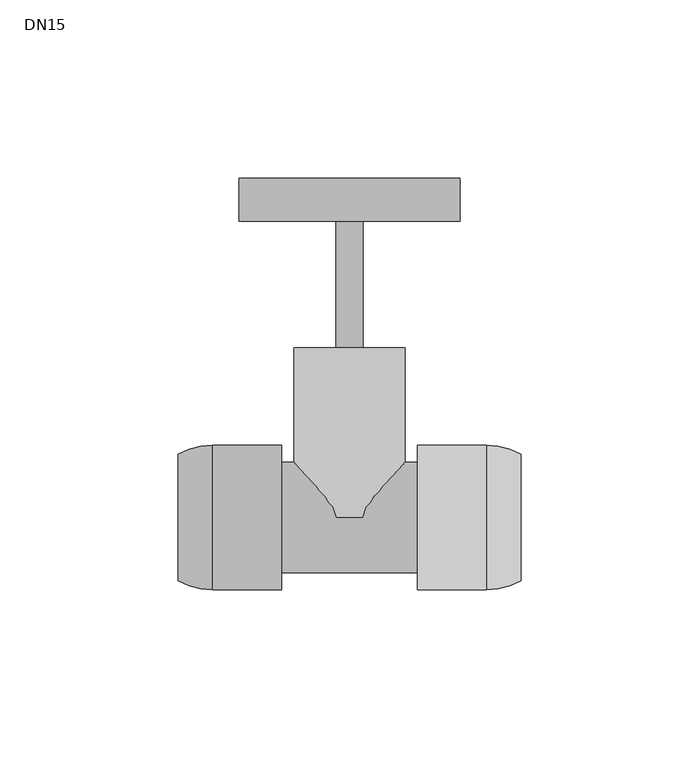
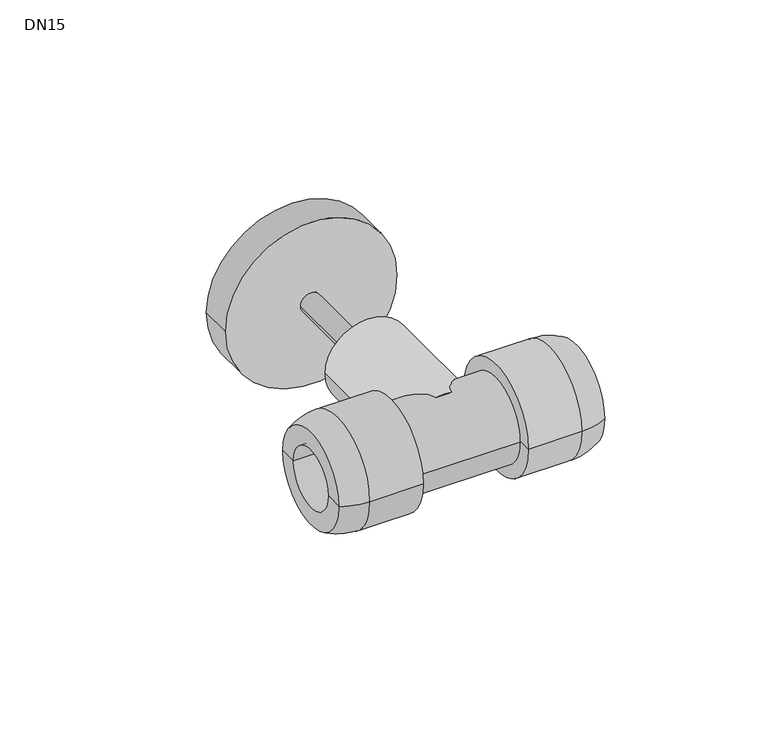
"""IFC4 building model written with IfcOpenShell, lengths in millimetres: valve geometry, Wavin_PipeAccessory_Hep2oGateValve : DN15."""

from ifc_helpers import new_model, si_unit, point, frame, origin, origin_2d, place, context, project, spatial, polyline, circle_curve, ellipse_curve, trimmed, segment, composite_curve, outline, extrude, source, transform, mapped, element, save
from ifc_brep_helpers import plane_surface, cylinder_surface, revolved_surface, advanced_brep


def dn15_df7de234(model_context):
    return source(origin(), model_context, "Body", "SolidModel", [
        advanced_brep(
        [(19.0, 11.0, 0.0), (19.0, -11.0, 0.0), (48.0, -11.0, 0.0), (48.0, 11.0, 0.0), (19.0, 20.2, 0.0), (19.0, -20.2, 0.0), (38.3333333, 20.2, 0.0), (38.3333333, -20.2, 0.0), (48.0, 17.7368418, 0.0), (48.0, -17.7368418, 0.0)],
        [
            (0, 1, circle_curve(frame((19.0, 0.0, 0.0), z_axis=(-1.0, 0.0, 0.0), x_axis=(0.0, -1.0000000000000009, 0.0)), 11.0)),
            (1, 2),
            (2, 3, circle_curve(frame((48.0, 0.0, 0.0), z_axis=(1.0, 0.0, 0.0), x_axis=(0.0, -1.0000000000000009, 0.0)), 11.0)),
            (3, 0),
            (1, 0, circle_curve(frame((19.0, 0.0, 0.0), z_axis=(-1.0, 0.0, 0.0), x_axis=(0.0, -1.0000000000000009, 0.0)), 11.0)),
            (3, 2, circle_curve(frame((48.0, 0.0, 0.0), z_axis=(1.0, 0.0, 0.0), x_axis=(0.0, -1.0000000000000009, 0.0)), 11.0)),
            (4, 5, circle_curve(frame((19.0, 0.0, 0.0), z_axis=(-1.0, 0.0, 0.0), x_axis=(0.0, -1.0000000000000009, 0.0)), 20.2)),
            (5, 1),
            (0, 4),
            (5, 4, circle_curve(frame((19.0, 0.0, 0.0), z_axis=(-1.0, 0.0, 0.0), x_axis=(0.0, -1.0000000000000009, 0.0)), 20.2)),
            (6, 7, circle_curve(frame((38.3333333, 0.0, 0.0), z_axis=(-1.0, 0.0, 0.0), x_axis=(0.0, -1.0000000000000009, 0.0)), 20.2)),
            (7, 5),
            (4, 6),
            (7, 6, circle_curve(frame((38.3333333, 0.0, 0.0), z_axis=(-1.0, 0.0, 0.0), x_axis=(0.0, -1.0000000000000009, 0.0)), 20.2)),
            (8, 9, circle_curve(frame((48.0, 0.0, 0.0), z_axis=(-1.0, 0.0, 0.0), x_axis=(0.0, -1.0000000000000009, 0.0)), 17.7368418)),
            (9, 7, circle_curve(frame((38.3333333, 0.0, 0.0), z_axis=(0.0, 0.0, -1.0000000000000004), x_axis=(-1.0000000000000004, 0.0, 0.0)), 20.2)),
            (6, 8, circle_curve(frame((38.3333333, 0.0, 0.0), z_axis=(0.0, 0.0, -1.0000000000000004), x_axis=(-1.0000000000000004, 0.0, 0.0)), 20.2)),
            (9, 8, circle_curve(frame((48.0, 0.0, 0.0), z_axis=(-1.0, 0.0, 0.0), x_axis=(0.0, -1.0000000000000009, 0.0)), 17.7368418)),
            (2, 9),
            (8, 3),
        ],
        [
            revolved_surface(polyline([(48.00000000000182, -11.00000000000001, 0.0), (19.00000000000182, -11.00000000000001, 0.0)]), (-1981.0, 0.0, 0.0), (1.0000000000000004, 0.0, 0.0)),
            plane_surface(frame((19.0, 0.0, 0.0), z_axis=(-1.0, 0.0, 0.0), x_axis=(0.0, -1.0, 0.0))),
            cylinder_surface(frame((-1981.0, 0.0, 0.0), z_axis=(1.0000000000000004, 0.0, 0.0), x_axis=(0.0, -1.0000000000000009, 0.0)), 20.2),
            revolved_surface(trimmed(ellipse_curve(frame((38.3333333, 0.0, 0.0), z_axis=(0.0, 0.0, 1.0000000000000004), x_axis=(-1.0000000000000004, 0.0, 0.0)), 20.2, 20.2), [point((38.3333333, -20.2, 0.0))], [point((48.0, -17.7368418, 0.0))], True, "CARTESIAN"), (-1981.0, 0.0, 0.0), (1.0000000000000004, 0.0, 0.0)),
            plane_surface(frame((48.0, 0.0, 0.0), z_axis=(1.0, 0.0, 0.0), x_axis=(0.0, -1.0, 0.0))),
        ],
        [
            (0, [[1, 2, 3, 4]]),
            (0, [[5, -4, 6, -2]]),
            (1, [[7, 8, -1, 9]]),
            (1, [[10, -9, -5, -8]]),
            (2, [[11, 12, -7, 13]]),
            (2, [[14, -13, -10, -12]]),
            (3, [[15, 16, -11, 17]]),
            (3, [[18, -17, -14, -16]]),
            (4, [[-3, 19, -15, 20]]),
            (4, [[-6, -20, -18, -19]]),
        ],
    ),
        advanced_brep(
        [(-19.0, -11.0, 0.0), (-19.0, 11.0, 0.0), (-48.0, 11.0, 0.0), (-48.0, -11.0, 0.0), (-19.0, -20.2, 0.0), (-19.0, 20.2, 0.0), (-38.3333333, -20.2, 0.0), (-38.3333333, 20.2, 0.0), (-48.0, -17.7368418, 0.0), (-48.0, 17.7368418, 0.0)],
        [
            (0, 1, circle_curve(frame((-19.0, 0.0, 0.0), z_axis=(1.0, 0.0, 0.0), x_axis=(0.0, 1.0, 0.0)), 11.0)),
            (1, 2),
            (2, 3, circle_curve(frame((-48.0, 0.0, 0.0), z_axis=(-1.0, 0.0, 0.0), x_axis=(0.0, 1.0, 0.0)), 11.0)),
            (3, 0),
            (1, 0, circle_curve(frame((-19.0, 0.0, 0.0), z_axis=(1.0, 0.0, 0.0), x_axis=(0.0, 1.0, 0.0)), 11.0)),
            (3, 2, circle_curve(frame((-48.0, 0.0, 0.0), z_axis=(-1.0, 0.0, 0.0), x_axis=(0.0, 1.0, 0.0)), 11.0)),
            (4, 5, circle_curve(frame((-19.0, 0.0, 0.0), z_axis=(1.0, 0.0, 0.0), x_axis=(0.0, 1.0, 0.0)), 20.2)),
            (5, 1),
            (0, 4),
            (5, 4, circle_curve(frame((-19.0, 0.0, 0.0), z_axis=(1.0, 0.0, 0.0), x_axis=(0.0, 1.0, 0.0)), 20.2)),
            (6, 7, circle_curve(frame((-38.3333333, 0.0, 0.0), z_axis=(1.0, 0.0, 0.0), x_axis=(0.0, 1.0, 0.0)), 20.2)),
            (7, 5),
            (4, 6),
            (7, 6, circle_curve(frame((-38.3333333, 0.0, 0.0), z_axis=(1.0, 0.0, 0.0), x_axis=(0.0, 1.0, 0.0)), 20.2)),
            (8, 9, circle_curve(frame((-48.0, 0.0, 0.0), z_axis=(1.0, 0.0, 0.0), x_axis=(0.0, 1.0, 0.0)), 17.7368418)),
            (9, 7, circle_curve(frame((-38.3333333, 0.0, 0.0), z_axis=(0.0, 0.0, -1.0), x_axis=(1.0, 0.0, 0.0)), 20.2)),
            (6, 8, circle_curve(frame((-38.3333333, 0.0, 0.0), z_axis=(0.0, 0.0, -1.0), x_axis=(1.0, 0.0, 0.0)), 20.2)),
            (9, 8, circle_curve(frame((-48.0, 0.0, 0.0), z_axis=(1.0, 0.0, 0.0), x_axis=(0.0, 1.0, 0.0)), 17.7368418)),
            (2, 9),
            (8, 3),
        ],
        [
            revolved_surface(polyline([(-48.0, 11.0, 0.0), (-19.0, 11.0, 0.0)]), (1981.0, 0.0, 0.0), (-1.0, 0.0, 0.0)),
            plane_surface(frame((-19.0, 0.0, 0.0), z_axis=(1.0, 0.0, 0.0), x_axis=(0.0, 1.0, 0.0))),
            cylinder_surface(frame((1981.0, 0.0, 0.0), z_axis=(-1.0, 0.0, 0.0), x_axis=(0.0, 1.0, 0.0)), 20.2),
            revolved_surface(trimmed(ellipse_curve(frame((-38.3333333, 0.0, 0.0), z_axis=(0.0, 0.0, 1.0), x_axis=(1.0, 0.0, 0.0)), 20.2, 20.2), [point((-38.3333333, 20.2, 0.0))], [point((-48.0, 17.7368418, 0.0))], True, "CARTESIAN"), (1981.0, 0.0, 0.0), (-1.0, 0.0, 0.0)),
            plane_surface(frame((-48.0, 0.0, 0.0), z_axis=(-1.0, 0.0, 0.0), x_axis=(0.0, 1.0, 0.0))),
        ],
        [
            (0, [[1, 2, 3, 4]]),
            (0, [[5, -4, 6, -2]]),
            (1, [[7, 8, -1, 9]]),
            (1, [[10, -9, -5, -8]]),
            (2, [[11, 12, -7, 13]]),
            (2, [[14, -13, -10, -12]]),
            (3, [[15, 16, -11, 17]]),
            (3, [[18, -17, -14, -16]]),
            (4, [[-3, 19, -15, 20]]),
            (4, [[-6, -20, -18, -19]]),
        ],
    ),
        extrude(outline(composite_curve([segment(trimmed(circle_curve(origin_2d(), 15.5), [point((0.0, -15.5))], [point((0.0, 15.5))], False, "CARTESIAN"), True, "CONTINUOUS"), segment(trimmed(circle_curve(origin_2d(), 15.5), [point((0.0, 15.5))], [point((0.0, -15.5))], False, "CARTESIAN"), True, "CONTINUOUS")], self_intersect=False)), frame((0.0, 0.0, 0.0), z_axis=(0.0, 1.0, 0.0), x_axis=(0.0, 0.0, 1.0)), (0.0, 0.0, 1.0), 47.5),
        extrude(outline(composite_curve([segment(trimmed(circle_curve(origin_2d(), 3.75), [point((0.0, -3.75))], [point((0.0, 3.75))], False, "CARTESIAN"), True, "CONTINUOUS"), segment(trimmed(circle_curve(origin_2d(), 3.75), [point((0.0, 3.75))], [point((0.0, -3.75))], False, "CARTESIAN"), True, "CONTINUOUS")], self_intersect=False)), frame((0.0, 47.5, 0.0), z_axis=(0.0, 1.0, 0.0), x_axis=(0.0, 0.0, 1.0)), (0.0, 0.0, 1.0), 47.5),
        extrude(outline(composite_curve([segment(trimmed(circle_curve(origin_2d(), 31.0), [point((0.0, -31.0))], [point((0.0, 31.0))], False, "CARTESIAN"), True, "CONTINUOUS"), segment(trimmed(circle_curve(origin_2d(), 31.0), [point((0.0, 31.0))], [point((0.0, -31.0))], False, "CARTESIAN"), True, "CONTINUOUS")], self_intersect=False)), frame((0.0, 83.0, 0.0), z_axis=(0.0, 1.0, 0.0), x_axis=(0.0, 0.0, 1.0)), (0.0, 0.0, 1.0), 12.0),
        advanced_brep(
        [(-19.0, 0.0, 0.0), (-19.0, 15.5, 0.0), (-19.0, -15.5, 0.0), (19.0, -15.5, 0.0), (19.0, 15.5, 0.0), (19.0, 0.0, 0.0)],
        [
            (0, 1),
            (1, 2, circle_curve(frame((-19.0, 0.0, 0.0), z_axis=(-1.0, 0.0, 0.0), x_axis=(0.0, 1.0, 0.0)), 15.5)),
            (2, 0),
            (2, 1, circle_curve(frame((-19.0, 0.0, 0.0), z_axis=(-1.0, 0.0, 0.0), x_axis=(0.0, 1.0, 0.0)), 15.5)),
            (3, 4, circle_curve(frame((19.0, 0.0, 0.0), z_axis=(1.0, 0.0, 0.0), x_axis=(0.0, 1.0, 0.0)), 15.5)),
            (4, 5),
            (5, 3),
            (4, 3, circle_curve(frame((19.0, 0.0, 0.0), z_axis=(1.0, 0.0, 0.0), x_axis=(0.0, 1.0, 0.0)), 15.5)),
            (1, 4),
            (3, 2),
        ],
        [
            plane_surface(frame((-19.0, 0.0, 0.0), z_axis=(-1.0, 0.0, 0.0), x_axis=(0.0, 1.0, 0.0))),
            plane_surface(frame((19.0, 0.0, 0.0), z_axis=(1.0, 0.0, 0.0), x_axis=(0.0, 1.0, 0.0))),
            cylinder_surface(frame((-19.0, 0.0, 0.0), z_axis=(-1.0, 0.0, 0.0), x_axis=(0.0, 1.0, 0.0)), 15.5),
        ],
        [
            (0, [[1, 2, 3]]),
            (0, [[-3, 4, -1]]),
            (1, [[5, 6, 7]]),
            (1, [[8, -7, -6]]),
            (2, [[-2, 9, -5, 10]]),
            (2, [[-4, -10, -8, -9]]),
        ],
    ),
    ])


if __name__ == "__main__":
    model = new_model("IFC4")
    model_context = context("Model", 3, world=origin())
    ifc_project = project(units=[si_unit("LENGTHUNIT", "METRE", prefix="MILLI")], contexts=[model_context])
    site = spatial("IfcSite", under=ifc_project)
    building = spatial("IfcBuilding", under=site)
    placement = place(None, origin())
    dn15_shape = dn15_df7de234(model_context)
    element("IfcValve", 1, ObjectType="Wavin_PipeAccessory_Hep2oGateValve : DN15", at=placement, inside=building, context=model_context, shape_type="MappedRepresentation", body=[
        mapped(dn15_shape, transform((0.0, 0.0, 0.0), x_axis=(1.0, 0.0, 0.0), y_axis=(0.0, 1.0, 0.0), z_axis=(0.0, 0.0, 1.0))),
    ])
    save(model, "model.ifc")
